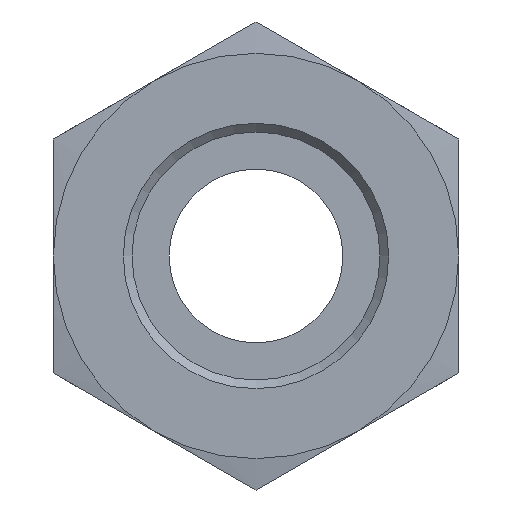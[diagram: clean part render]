
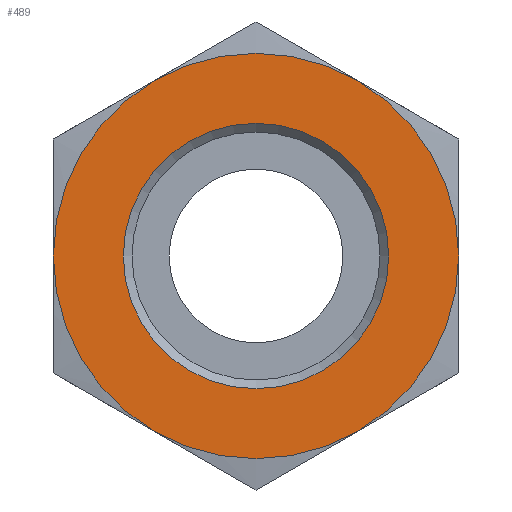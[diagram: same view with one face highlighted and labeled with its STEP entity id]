
A CAD part, front view. The second image highlights one B-rep face of the part: STEP entity #489.
In plain terms, the highlighted planar face has unit normal (0, -1, 0).
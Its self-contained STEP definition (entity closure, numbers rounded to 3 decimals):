
#40=FACE_BOUND('',#119,.T.);
#47=PLANE('',#564);
#82=FACE_OUTER_BOUND('',#118,.T.);
#118=EDGE_LOOP('',(#367,#368,#369,#370,#371,#372));
#119=EDGE_LOOP('',(#373));
#194=CIRCLE('',#559,4.583);
#198=CIRCLE('',#565,7.);
#199=CIRCLE('',#566,7.);
#200=CIRCLE('',#567,7.);
#201=CIRCLE('',#568,7.);
#202=CIRCLE('',#569,7.);
#203=CIRCLE('',#570,7.);
#226=VERTEX_POINT('',#797);
#230=VERTEX_POINT('',#809);
#231=VERTEX_POINT('',#810);
#232=VERTEX_POINT('',#812);
#233=VERTEX_POINT('',#814);
#234=VERTEX_POINT('',#816);
#235=VERTEX_POINT('',#818);
#275=EDGE_CURVE('',#226,#226,#194,.T.);
#281=EDGE_CURVE('',#230,#231,#198,.T.);
#282=EDGE_CURVE('',#231,#232,#199,.T.);
#283=EDGE_CURVE('',#232,#233,#200,.T.);
#284=EDGE_CURVE('',#233,#234,#201,.T.);
#285=EDGE_CURVE('',#234,#235,#202,.T.);
#286=EDGE_CURVE('',#235,#230,#203,.T.);
#367=ORIENTED_EDGE('',*,*,#281,.T.);
#368=ORIENTED_EDGE('',*,*,#282,.T.);
#369=ORIENTED_EDGE('',*,*,#283,.T.);
#370=ORIENTED_EDGE('',*,*,#284,.T.);
#371=ORIENTED_EDGE('',*,*,#285,.T.);
#372=ORIENTED_EDGE('',*,*,#286,.T.);
#373=ORIENTED_EDGE('',*,*,#275,.F.);
#489=ADVANCED_FACE('',(#82,#40),#47,.F.);
#559=AXIS2_PLACEMENT_3D('',#798,#653,#654);
#564=AXIS2_PLACEMENT_3D('',#808,#665,#666);
#565=AXIS2_PLACEMENT_3D('',#811,#667,#668);
#566=AXIS2_PLACEMENT_3D('',#813,#669,#670);
#567=AXIS2_PLACEMENT_3D('',#815,#671,#672);
#568=AXIS2_PLACEMENT_3D('',#817,#673,#674);
#569=AXIS2_PLACEMENT_3D('',#819,#675,#676);
#570=AXIS2_PLACEMENT_3D('',#820,#677,#678);
#653=DIRECTION('center_axis',(0.,-1.,0.));
#654=DIRECTION('ref_axis',(-1.,0.,0.));
#665=DIRECTION('center_axis',(0.,1.,0.));
#666=DIRECTION('ref_axis',(0.,0.,1.));
#667=DIRECTION('center_axis',(0.,-1.,0.));
#668=DIRECTION('ref_axis',(1.,0.,0.));
#669=DIRECTION('center_axis',(0.,-1.,0.));
#670=DIRECTION('ref_axis',(1.,0.,0.));
#671=DIRECTION('center_axis',(0.,-1.,0.));
#672=DIRECTION('ref_axis',(1.,0.,0.));
#673=DIRECTION('center_axis',(0.,-1.,0.));
#674=DIRECTION('ref_axis',(1.,0.,0.));
#675=DIRECTION('center_axis',(0.,-1.,0.));
#676=DIRECTION('ref_axis',(1.,0.,0.));
#677=DIRECTION('center_axis',(0.,-1.,0.));
#678=DIRECTION('ref_axis',(1.,0.,0.));
#797=CARTESIAN_POINT('',(4.583,0.,0.));
#798=CARTESIAN_POINT('Origin',(0.,0.,0.));
#808=CARTESIAN_POINT('Origin',(0.,0.,0.));
#809=CARTESIAN_POINT('',(-7.,0.,0.));
#810=CARTESIAN_POINT('',(-3.5,0.,-6.062));
#811=CARTESIAN_POINT('Origin',(0.,0.,0.));
#812=CARTESIAN_POINT('',(3.5,0.,-6.062));
#813=CARTESIAN_POINT('Origin',(0.,0.,0.));
#814=CARTESIAN_POINT('',(7.,0.,0.));
#815=CARTESIAN_POINT('Origin',(0.,0.,0.));
#816=CARTESIAN_POINT('',(3.5,0.,6.062));
#817=CARTESIAN_POINT('Origin',(0.,0.,0.));
#818=CARTESIAN_POINT('',(-3.5,0.,6.062));
#819=CARTESIAN_POINT('Origin',(0.,0.,0.));
#820=CARTESIAN_POINT('Origin',(0.,0.,0.));
